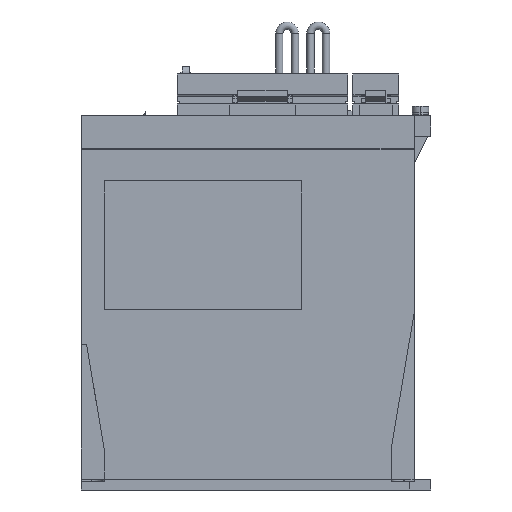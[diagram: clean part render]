
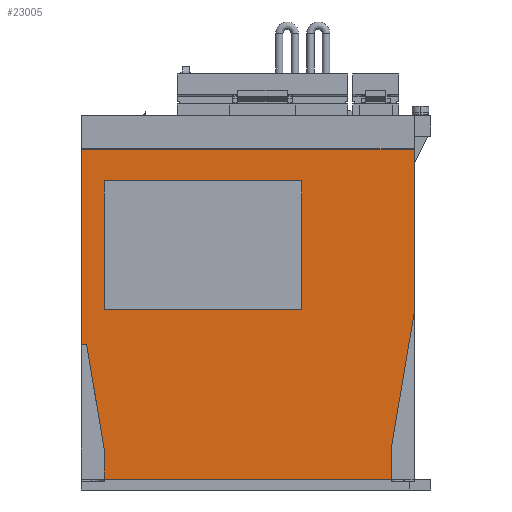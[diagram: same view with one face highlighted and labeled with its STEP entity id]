
A CAD part, left-side view. The second image highlights one B-rep face of the part: STEP entity #23005.
In plain terms, the highlighted planar face has unit normal (-1, 0, 0).
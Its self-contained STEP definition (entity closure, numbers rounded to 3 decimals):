
#487 = VERTEX_POINT ( 'NONE', #18547 ) ;
#1706 = EDGE_CURVE ( 'NONE', #15965, #487, #20617, .T. ) ;
#10732 = EDGE_CURVE ( 'NONE', #26444, #10750, #35962, .T. ) ;
#10740 = ORIENTED_EDGE ( 'NONE', *, *, #10732, .F. ) ;
#10750 = VERTEX_POINT ( 'NONE', #35991 ) ;
#12233 = VERTEX_POINT ( 'NONE', #38227 ) ;
#12291 = ORIENTED_EDGE ( 'NONE', *, *, #12390, .T. ) ;
#12384 = EDGE_CURVE ( 'NONE', #12233, #23778, #38486, .T. ) ;
#12390 = EDGE_CURVE ( 'NONE', #12233, #10750, #38478, .T. ) ;
#15965 = VERTEX_POINT ( 'NONE', #43922 ) ;
#18547 = CARTESIAN_POINT ( 'NONE',  ( -6., 5., 70. ) ) ;
#20381 = VERTEX_POINT ( 'NONE', #46768 ) ;
#20608 = DIRECTION ( 'NONE',  ( 0., 0., -1. ) ) ;
#20609 = VECTOR ( 'NONE', #20608, 1000. ) ;
#20610 = CARTESIAN_POINT ( 'NONE',  ( -6., 5., 338.642 ) ) ;
#20617 = LINE ( 'NONE', #20610, #20609 ) ;
#21063 = VERTEX_POINT ( 'NONE', #46766 ) ;
#21066 = VERTEX_POINT ( 'NONE', #46765 ) ;
#21134 = EDGE_CURVE ( 'NONE', #20381, #21063, #46764, .T. ) ;
#21156 = ORIENTED_EDGE ( 'NONE', *, *, #21134, .F. ) ;
#21372 = EDGE_LOOP ( 'NONE', ( #21911, #21156, #52204, #52185 ) ) ;
#21911 = ORIENTED_EDGE ( 'NONE', *, *, #21917, .F. ) ;
#21917 = EDGE_CURVE ( 'NONE', #21063, #21066, #46798, .T. ) ;
#23005 = ADVANCED_FACE ( 'NONE', ( #46830, #46829 ), #46828, .F. ) ;
#23778 = VERTEX_POINT ( 'NONE', #46857 ) ;
#23806 = EDGE_CURVE ( 'NONE', #24031, #23778, #46849, .T. ) ;
#23807 = ORIENTED_EDGE ( 'NONE', *, *, #12384, .F. ) ;
#24031 = VERTEX_POINT ( 'NONE', #46899 ) ;
#24040 = ORIENTED_EDGE ( 'NONE', *, *, #23806, .T. ) ;
#24536 = ORIENTED_EDGE ( 'NONE', *, *, #24561, .T. ) ;
#24561 = EDGE_CURVE ( 'NONE', #24568, #24031, #46882, .T. ) ;
#24568 = VERTEX_POINT ( 'NONE', #46878 ) ;
#24693 = VERTEX_POINT ( 'NONE', #46930 ) ;
#24694 = ORIENTED_EDGE ( 'NONE', *, *, #24831, .F. ) ;
#24831 = EDGE_CURVE ( 'NONE', #24568, #24693, #46929, .T. ) ;
#25055 = ORIENTED_EDGE ( 'NONE', *, *, #1706, .T. ) ;
#25098 = ORIENTED_EDGE ( 'NONE', *, *, #25100, .T. ) ;
#25100 = EDGE_CURVE ( 'NONE', #487, #24693, #46910, .T. ) ;
#25949 = EDGE_CURVE ( 'NONE', #15965, #26444, #46991, .T. ) ;
#25997 = ORIENTED_EDGE ( 'NONE', *, *, #25949, .F. ) ;
#26444 = VERTEX_POINT ( 'NONE', #47025 ) ;
#35959 = DIRECTION ( 'NONE',  ( 0., 0., -1. ) ) ;
#35960 = VECTOR ( 'NONE', #35959, 1000. ) ;
#35961 = CARTESIAN_POINT ( 'NONE',  ( -6., -155., 338.642 ) ) ;
#35962 = LINE ( 'NONE', #35961, #35960 ) ;
#35991 = CARTESIAN_POINT ( 'NONE',  ( -6., -155., 85. ) ) ;
#38227 = CARTESIAN_POINT ( 'NONE',  ( -6., -144., 20. ) ) ;
#38475 = DIRECTION ( 'NONE',  ( 0., -0.167, 0.986 ) ) ;
#38476 = VECTOR ( 'NONE', #38475, 1000. ) ;
#38477 = CARTESIAN_POINT ( 'NONE',  ( -6., -144., 20. ) ) ;
#38478 = LINE ( 'NONE', #38477, #38476 ) ;
#38483 = DIRECTION ( 'NONE',  ( 0., 0., -1. ) ) ;
#38484 = VECTOR ( 'NONE', #38483, 1000. ) ;
#38485 = CARTESIAN_POINT ( 'NONE',  ( -6., -144., 20. ) ) ;
#38486 = LINE ( 'NONE', #38485, #38484 ) ;
#43922 = CARTESIAN_POINT ( 'NONE',  ( -6., 5., 163.8 ) ) ;
#46761 = DIRECTION ( 'NONE',  ( 0., -1., 0. ) ) ;
#46762 = VECTOR ( 'NONE', #46761, 1000. ) ;
#46763 = CARTESIAN_POINT ( 'NONE',  ( -6., -6., 86.6 ) ) ;
#46764 = LINE ( 'NONE', #46763, #46762 ) ;
#46765 = CARTESIAN_POINT ( 'NONE',  ( -6., -101., 148.6 ) ) ;
#46766 = CARTESIAN_POINT ( 'NONE',  ( -6., -101., 86.6 ) ) ;
#46768 = CARTESIAN_POINT ( 'NONE',  ( -6., -6., 86.6 ) ) ;
#46795 = DIRECTION ( 'NONE',  ( 0., 0., 1. ) ) ;
#46796 = VECTOR ( 'NONE', #46795, 1000. ) ;
#46797 = CARTESIAN_POINT ( 'NONE',  ( -6., -101., 86.6 ) ) ;
#46798 = LINE ( 'NONE', #46797, #46796 ) ;
#46824 = DIRECTION ( 'NONE',  ( 0., 1., 0. ) ) ;
#46825 = DIRECTION ( 'NONE',  ( 1., 0., 0. ) ) ;
#46826 = CARTESIAN_POINT ( 'NONE',  ( -6., 5., 338.642 ) ) ;
#46827 = AXIS2_PLACEMENT_3D ( 'NONE', #46826, #46825, #46824 ) ;
#46828 = PLANE ( 'NONE',  #46827 ) ;
#46829 = FACE_OUTER_BOUND ( 'NONE', #52131, .T. ) ;
#46830 = FACE_BOUND ( 'NONE', #21372, .T. ) ;
#46846 = DIRECTION ( 'NONE',  ( 0., -1., 0. ) ) ;
#46847 = VECTOR ( 'NONE', #46846, 1000. ) ;
#46848 = CARTESIAN_POINT ( 'NONE',  ( -6., -6., 5.2 ) ) ;
#46849 = LINE ( 'NONE', #46848, #46847 ) ;
#46857 = CARTESIAN_POINT ( 'NONE',  ( -6., -144., 5.2 ) ) ;
#46878 = CARTESIAN_POINT ( 'NONE',  ( -6., -6., 20. ) ) ;
#46879 = DIRECTION ( 'NONE',  ( 0., 0., -1. ) ) ;
#46880 = VECTOR ( 'NONE', #46879, 1000. ) ;
#46881 = CARTESIAN_POINT ( 'NONE',  ( -6., -6., 20. ) ) ;
#46882 = LINE ( 'NONE', #46881, #46880 ) ;
#46899 = CARTESIAN_POINT ( 'NONE',  ( -6., -6., 5.2 ) ) ;
#46909 = CARTESIAN_POINT ( 'NONE',  ( -6., 5., 70. ) ) ;
#46910 = LINE ( 'NONE', #46909, #46973 ) ;
#46926 = DIRECTION ( 'NONE',  ( 0., 0.167, 0.986 ) ) ;
#46927 = VECTOR ( 'NONE', #46926, 1000. ) ;
#46928 = CARTESIAN_POINT ( 'NONE',  ( -6., -6., 20. ) ) ;
#46929 = LINE ( 'NONE', #46928, #46927 ) ;
#46930 = CARTESIAN_POINT ( 'NONE',  ( -6., 2.462, 70. ) ) ;
#46972 = DIRECTION ( 'NONE',  ( 0., -1., 0. ) ) ;
#46973 = VECTOR ( 'NONE', #46972, 1000. ) ;
#46988 = DIRECTION ( 'NONE',  ( 0., -1., 0. ) ) ;
#46989 = VECTOR ( 'NONE', #46988, 1000. ) ;
#46990 = CARTESIAN_POINT ( 'NONE',  ( -6., 5., 163.8 ) ) ;
#46991 = LINE ( 'NONE', #46990, #46989 ) ;
#47025 = CARTESIAN_POINT ( 'NONE',  ( -6., -155., 163.8 ) ) ;
#49673 = CARTESIAN_POINT ( 'NONE',  ( -6., -6., 148.6 ) ) ;
#49691 = VECTOR ( 'NONE', #49759, 1000. ) ;
#49692 = CARTESIAN_POINT ( 'NONE',  ( -6., -6., 86.6 ) ) ;
#49693 = LINE ( 'NONE', #49692, #49691 ) ;
#49694 = DIRECTION ( 'NONE',  ( 0., 1., 0. ) ) ;
#49695 = VECTOR ( 'NONE', #49694, 1000. ) ;
#49696 = CARTESIAN_POINT ( 'NONE',  ( -6., -6., 148.6 ) ) ;
#49697 = LINE ( 'NONE', #49696, #49695 ) ;
#49759 = DIRECTION ( 'NONE',  ( 0., 0., -1. ) ) ;
#52131 = EDGE_LOOP ( 'NONE', ( #25055, #25098, #24694, #24536, #24040, #23807, #12291, #10740, #25997 ) ) ;
#52168 = VERTEX_POINT ( 'NONE', #49673 ) ;
#52185 = ORIENTED_EDGE ( 'NONE', *, *, #52188, .F. ) ;
#52188 = EDGE_CURVE ( 'NONE', #21066, #52168, #49697, .T. ) ;
#52189 = EDGE_CURVE ( 'NONE', #52168, #20381, #49693, .T. ) ;
#52204 = ORIENTED_EDGE ( 'NONE', *, *, #52189, .F. ) ;
